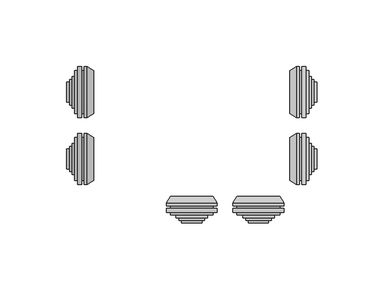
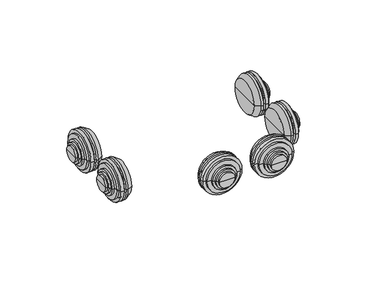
"""IFC4 building model written with IfcOpenShell, lengths in millimetres: cable carrier fitting geometry, КНС_КоробкаОтветвительнаяСКабельнымиВводами_10_IP55_DKC : с 10 кабельными вводами д.25мм, IP55, 150х110х70мм."""

from ifc_helpers import new_model, si_unit, frame, origin, place, context, project, spatial, polyline, circle_curve, source, transform, mapped, element, save
from ifc_brep_helpers import plane_surface, cylinder_surface, revolved_surface, advanced_brep


def cable_carrier_fitting_7de9eb7b(model_context):
    return source(origin(), model_context, "Body", "AdvancedBrep", [
        advanced_brep(
        [(-80.5, -41.0, 34.0), (-80.5, -9.0, 34.0), (-80.5, -6.0, 34.0), (-80.5, -44.0, 34.0), (-82.5, -41.0, 34.0), (-82.5, -9.0, 34.0), (-82.5, -44.0, 34.0), (-82.5, -6.0, 34.0), (-85.5, -44.0, 34.0), (-85.5, -6.0, 34.0), (-85.5, -41.0, 34.0), (-85.5, -9.0, 34.0), (-87.5, -41.0, 34.0), (-87.5, -9.0, 34.0), (-87.5, -36.75, 34.0), (-87.5, -13.25, 34.0), (-89.5, -36.75, 34.0), (-89.5, -13.25, 34.0), (-89.5, -34.5, 34.0), (-89.5, -15.5, 34.0), (-91.5, -34.5, 34.0), (-91.5, -15.5, 34.0), (-91.5, -32.5, 34.0), (-91.5, -17.5, 34.0), (-93.5, -32.5, 34.0), (-93.5, -17.5, 34.0), (-93.5, -25.0, 34.0), (-73.5, -41.0, 34.0), (-73.5, -9.0, 34.0), (-73.5, -25.0, 34.0), (-78.2491137, -44.0, 34.0), (-78.2491137, -6.0, 34.0)],
        [
            (0, 1, circle_curve(frame((-80.5, -25.0, 34.0), z_axis=(1.0, 0.0, 0.0), x_axis=(0.0, 1.0000000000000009, 0.0)), 16.0)),
            (1, 2),
            (2, 3, circle_curve(frame((-80.5, -25.0, 34.0), z_axis=(-1.0, 0.0, 0.0), x_axis=(0.0, 1.0000000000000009, 0.0)), 19.0)),
            (3, 0),
            (1, 0, circle_curve(frame((-80.5, -25.0, 34.0), z_axis=(1.0, 0.0, 0.0), x_axis=(0.0, 1.0000000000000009, 0.0)), 16.0)),
            (3, 2, circle_curve(frame((-80.5, -25.0, 34.0), z_axis=(-1.0, 0.0, 0.0), x_axis=(0.0, 1.0000000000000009, 0.0)), 19.0)),
            (4, 5, circle_curve(frame((-82.5, -25.0, 34.0), z_axis=(1.0, 0.0, 0.0), x_axis=(0.0, 1.0000000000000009, 0.0)), 16.0)),
            (5, 1),
            (0, 4),
            (5, 4, circle_curve(frame((-82.5, -25.0, 34.0), z_axis=(1.0, 0.0, 0.0), x_axis=(0.0, 1.0000000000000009, 0.0)), 16.0)),
            (6, 7, circle_curve(frame((-82.5, -25.0, 34.0), z_axis=(1.0, 0.0, 0.0), x_axis=(0.0, 1.0000000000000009, 0.0)), 19.0)),
            (7, 5),
            (4, 6),
            (7, 6, circle_curve(frame((-82.5, -25.0, 34.0), z_axis=(1.0, 0.0, 0.0), x_axis=(0.0, 1.0000000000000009, 0.0)), 19.0)),
            (8, 9, circle_curve(frame((-85.5, -25.0, 34.0), z_axis=(1.0, 0.0, 0.0), x_axis=(0.0, 1.0000000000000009, 0.0)), 19.0)),
            (9, 7),
            (6, 8),
            (9, 8, circle_curve(frame((-85.5, -25.0, 34.0), z_axis=(1.0, 0.0, 0.0), x_axis=(0.0, 1.0000000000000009, 0.0)), 19.0)),
            (10, 11, circle_curve(frame((-85.5, -25.0, 34.0), z_axis=(1.0, 0.0, 0.0), x_axis=(0.0, 1.0000000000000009, 0.0)), 16.0)),
            (11, 9),
            (8, 10),
            (11, 10, circle_curve(frame((-85.5, -25.0, 34.0), z_axis=(1.0, 0.0, 0.0), x_axis=(0.0, 1.0000000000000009, 0.0)), 16.0)),
            (12, 13, circle_curve(frame((-87.5, -25.0, 34.0), z_axis=(1.0, 0.0, 0.0), x_axis=(0.0, 1.0000000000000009, 0.0)), 16.0)),
            (13, 11),
            (10, 12),
            (13, 12, circle_curve(frame((-87.5, -25.0, 34.0), z_axis=(1.0, 0.0, 0.0), x_axis=(0.0, 1.0000000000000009, 0.0)), 16.0)),
            (14, 15, circle_curve(frame((-87.5, -25.0, 34.0), z_axis=(1.0, 0.0, 0.0), x_axis=(0.0, 1.0000000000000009, 0.0)), 11.75)),
            (15, 13),
            (12, 14),
            (15, 14, circle_curve(frame((-87.5, -25.0, 34.0), z_axis=(1.0, 0.0, 0.0), x_axis=(0.0, 1.0000000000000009, 0.0)), 11.75)),
            (16, 17, circle_curve(frame((-89.5, -25.0, 34.0), z_axis=(1.0, 0.0, 0.0), x_axis=(0.0, 1.0000000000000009, 0.0)), 11.75)),
            (17, 15),
            (14, 16),
            (17, 16, circle_curve(frame((-89.5, -25.0, 34.0), z_axis=(1.0, 0.0, 0.0), x_axis=(0.0, 1.0000000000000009, 0.0)), 11.75)),
            (18, 19, circle_curve(frame((-89.5, -25.0, 34.0), z_axis=(1.0, 0.0, 0.0), x_axis=(0.0, 1.0000000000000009, 0.0)), 9.5)),
            (19, 17),
            (16, 18),
            (19, 18, circle_curve(frame((-89.5, -25.0, 34.0), z_axis=(1.0, 0.0, 0.0), x_axis=(0.0, 1.0000000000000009, 0.0)), 9.5)),
            (20, 21, circle_curve(frame((-91.5, -25.0, 34.0), z_axis=(1.0, 0.0, 0.0), x_axis=(0.0, 1.0000000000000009, 0.0)), 9.5)),
            (21, 19),
            (18, 20),
            (21, 20, circle_curve(frame((-91.5, -25.0, 34.0), z_axis=(1.0, 0.0, 0.0), x_axis=(0.0, 1.0000000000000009, 0.0)), 9.5)),
            (22, 23, circle_curve(frame((-91.5, -25.0, 34.0), z_axis=(1.0, 0.0, 0.0), x_axis=(0.0, 1.0000000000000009, 0.0)), 7.5)),
            (23, 21),
            (20, 22),
            (23, 22, circle_curve(frame((-91.5, -25.0, 34.0), z_axis=(1.0, 0.0, 0.0), x_axis=(0.0, 1.0000000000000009, 0.0)), 7.5)),
            (24, 25, circle_curve(frame((-93.5, -25.0, 34.0), z_axis=(1.0, 0.0, 0.0), x_axis=(0.0, 1.0000000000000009, 0.0)), 7.5)),
            (25, 23),
            (22, 24),
            (25, 24, circle_curve(frame((-93.5, -25.0, 34.0), z_axis=(1.0, 0.0, 0.0), x_axis=(0.0, 1.0000000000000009, 0.0)), 7.5)),
            (26, 25),
            (24, 26),
            (27, 28, circle_curve(frame((-73.5, -25.0, 34.0), z_axis=(1.0, 0.0, 0.0), x_axis=(0.0, 1.0000000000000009, 0.0)), 16.0)),
            (28, 29),
            (29, 27),
            (28, 27, circle_curve(frame((-73.5, -25.0, 34.0), z_axis=(1.0, 0.0, 0.0), x_axis=(0.0, 1.0000000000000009, 0.0)), 16.0)),
            (30, 31, circle_curve(frame((-78.2491137, -25.0, 34.0), z_axis=(1.0, 0.0, 0.0), x_axis=(0.0, 1.0000000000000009, 0.0)), 19.0)),
            (31, 28),
            (27, 30),
            (31, 30, circle_curve(frame((-78.2491137, -25.0, 34.0), z_axis=(1.0, 0.0, 0.0), x_axis=(0.0, 1.0000000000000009, 0.0)), 19.0)),
            (2, 31),
            (30, 3),
        ],
        [
            plane_surface(frame((-80.5, -25.0, 34.0), z_axis=(-1.0, 0.0, 0.0), x_axis=(0.0, 1.0, 0.0))),
            cylinder_surface(frame((1432.5, -25.0, 34.0), z_axis=(-1.0000000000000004, 0.0, 0.0), x_axis=(0.0, 1.0000000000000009, 0.0)), 16.0),
            plane_surface(frame((-82.5, -25.0, 34.0), z_axis=(1.0, 0.0, 0.0), x_axis=(0.0, 1.0, 0.0))),
            cylinder_surface(frame((1432.5, -25.0, 34.0), z_axis=(-1.0000000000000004, 0.0, 0.0), x_axis=(0.0, 1.0000000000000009, 0.0)), 19.0),
            plane_surface(frame((-85.5, -25.0, 34.0), z_axis=(-1.0, 0.0, 0.0), x_axis=(0.0, 1.0, 0.0))),
            plane_surface(frame((-87.5, -25.0, 34.0), z_axis=(-1.0, 0.0, 0.0), x_axis=(0.0, 1.0, 0.0))),
            cylinder_surface(frame((1432.5, -25.0, 34.0), z_axis=(-1.0000000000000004, 0.0, 0.0), x_axis=(0.0, 1.0000000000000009, 0.0)), 11.75),
            plane_surface(frame((-89.5, -25.0, 34.0), z_axis=(-1.0, 0.0, 0.0), x_axis=(0.0, 1.0, 0.0))),
            cylinder_surface(frame((1432.5, -25.0, 34.0), z_axis=(-1.0000000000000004, 0.0, 0.0), x_axis=(0.0, 1.0000000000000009, 0.0)), 9.5),
            plane_surface(frame((-91.5, -25.0, 34.0), z_axis=(-1.0, 0.0, 0.0), x_axis=(0.0, 1.0, 0.0))),
            cylinder_surface(frame((1432.5, -25.0, 34.0), z_axis=(-1.0000000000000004, 0.0, 0.0), x_axis=(0.0, 1.0000000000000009, 0.0)), 7.5),
            plane_surface(frame((-93.5, -25.0, 34.0), z_axis=(-1.0, 0.0, 0.0), x_axis=(0.0, 1.0, 0.0))),
            plane_surface(frame((-73.5, -25.0, 34.0), z_axis=(1.0, 0.0, 0.0), x_axis=(0.0, 1.0, 0.0))),
            revolved_surface(polyline([(-73.5, -9.0, 34.0), (-78.2491137, -6.0, 34.0)]), (1432.5, -25.0, 34.0), (-1.0000000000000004, 0.0, 0.0)),
        ],
        [
            (0, [[1, 2, 3, 4]]),
            (0, [[5, -4, 6, -2]]),
            (1, [[7, 8, -1, 9]]),
            (1, [[10, -9, -5, -8]]),
            (2, [[11, 12, -7, 13]]),
            (2, [[14, -13, -10, -12]]),
            (3, [[15, 16, -11, 17]]),
            (3, [[18, -17, -14, -16]]),
            (4, [[19, 20, -15, 21]]),
            (4, [[22, -21, -18, -20]]),
            (1, [[23, 24, -19, 25]]),
            (1, [[26, -25, -22, -24]]),
            (5, [[27, 28, -23, 29]]),
            (5, [[30, -29, -26, -28]]),
            (6, [[31, 32, -27, 33]]),
            (6, [[34, -33, -30, -32]]),
            (7, [[35, 36, -31, 37]]),
            (7, [[38, -37, -34, -36]]),
            (8, [[39, 40, -35, 41]]),
            (8, [[42, -41, -38, -40]]),
            (9, [[43, 44, -39, 45]]),
            (9, [[46, -45, -42, -44]]),
            (10, [[47, 48, -43, 49]]),
            (10, [[50, -49, -46, -48]]),
            (11, [[51, -47, 52]]),
            (11, [[-52, -50, -51]]),
            (12, [[53, 54, 55]]),
            (12, [[56, -55, -54]]),
            (13, [[57, 58, -53, 59]]),
            (13, [[60, -59, -56, -58]]),
            (3, [[-3, 61, -57, 62]]),
            (3, [[-6, -62, -60, -61]]),
        ],
    ),
        advanced_brep(
        [(-80.5, 9.0, 34.0), (-80.5, 41.0, 34.0), (-80.5, 44.0, 34.0), (-80.5, 6.0, 34.0), (-82.5, 9.0, 34.0), (-82.5, 41.0, 34.0), (-82.5, 6.0, 34.0), (-82.5, 44.0, 34.0), (-85.5, 6.0, 34.0), (-85.5, 44.0, 34.0), (-85.5, 9.0, 34.0), (-85.5, 41.0, 34.0), (-87.5, 9.0, 34.0), (-87.5, 41.0, 34.0), (-87.5, 13.25, 34.0), (-87.5, 36.75, 34.0), (-89.5, 13.25, 34.0), (-89.5, 36.75, 34.0), (-89.5, 15.5, 34.0), (-89.5, 34.5, 34.0), (-91.5, 15.5, 34.0), (-91.5, 34.5, 34.0), (-91.5, 17.5, 34.0), (-91.5, 32.5, 34.0), (-93.5, 17.5, 34.0), (-93.5, 32.5, 34.0), (-93.5, 25.0, 34.0), (-73.5, 9.0, 34.0), (-73.5, 41.0, 34.0), (-73.5, 25.0, 34.0), (-78.2491137, 6.0, 34.0), (-78.2491137, 44.0, 34.0)],
        [
            (0, 1, circle_curve(frame((-80.5, 25.0, 34.0), z_axis=(1.0, 0.0, 0.0), x_axis=(0.0, 1.0000000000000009, 0.0)), 16.0)),
            (1, 2),
            (2, 3, circle_curve(frame((-80.5, 25.0, 34.0), z_axis=(-1.0, 0.0, 0.0), x_axis=(0.0, 1.0000000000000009, 0.0)), 19.0)),
            (3, 0),
            (1, 0, circle_curve(frame((-80.5, 25.0, 34.0), z_axis=(1.0, 0.0, 0.0), x_axis=(0.0, 1.0000000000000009, 0.0)), 16.0)),
            (3, 2, circle_curve(frame((-80.5, 25.0, 34.0), z_axis=(-1.0, 0.0, 0.0), x_axis=(0.0, 1.0000000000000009, 0.0)), 19.0)),
            (4, 5, circle_curve(frame((-82.5, 25.0, 34.0), z_axis=(1.0, 0.0, 0.0), x_axis=(0.0, 1.0000000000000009, 0.0)), 16.0)),
            (5, 1),
            (0, 4),
            (5, 4, circle_curve(frame((-82.5, 25.0, 34.0), z_axis=(1.0, 0.0, 0.0), x_axis=(0.0, 1.0000000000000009, 0.0)), 16.0)),
            (6, 7, circle_curve(frame((-82.5, 25.0, 34.0), z_axis=(1.0, 0.0, 0.0), x_axis=(0.0, 1.0000000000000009, 0.0)), 19.0)),
            (7, 5),
            (4, 6),
            (7, 6, circle_curve(frame((-82.5, 25.0, 34.0), z_axis=(1.0, 0.0, 0.0), x_axis=(0.0, 1.0000000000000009, 0.0)), 19.0)),
            (8, 9, circle_curve(frame((-85.5, 25.0, 34.0), z_axis=(1.0, 0.0, 0.0), x_axis=(0.0, 1.0000000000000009, 0.0)), 19.0)),
            (9, 7),
            (6, 8),
            (9, 8, circle_curve(frame((-85.5, 25.0, 34.0), z_axis=(1.0, 0.0, 0.0), x_axis=(0.0, 1.0000000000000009, 0.0)), 19.0)),
            (10, 11, circle_curve(frame((-85.5, 25.0, 34.0), z_axis=(1.0, 0.0, 0.0), x_axis=(0.0, 1.0000000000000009, 0.0)), 16.0)),
            (11, 9),
            (8, 10),
            (11, 10, circle_curve(frame((-85.5, 25.0, 34.0), z_axis=(1.0, 0.0, 0.0), x_axis=(0.0, 1.0000000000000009, 0.0)), 16.0)),
            (12, 13, circle_curve(frame((-87.5, 25.0, 34.0), z_axis=(1.0, 0.0, 0.0), x_axis=(0.0, 1.0000000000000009, 0.0)), 16.0)),
            (13, 11),
            (10, 12),
            (13, 12, circle_curve(frame((-87.5, 25.0, 34.0), z_axis=(1.0, 0.0, 0.0), x_axis=(0.0, 1.0000000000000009, 0.0)), 16.0)),
            (14, 15, circle_curve(frame((-87.5, 25.0, 34.0), z_axis=(1.0, 0.0, 0.0), x_axis=(0.0, 1.0000000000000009, 0.0)), 11.75)),
            (15, 13),
            (12, 14),
            (15, 14, circle_curve(frame((-87.5, 25.0, 34.0), z_axis=(1.0, 0.0, 0.0), x_axis=(0.0, 1.0000000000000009, 0.0)), 11.75)),
            (16, 17, circle_curve(frame((-89.5, 25.0, 34.0), z_axis=(1.0, 0.0, 0.0), x_axis=(0.0, 1.0000000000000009, 0.0)), 11.75)),
            (17, 15),
            (14, 16),
            (17, 16, circle_curve(frame((-89.5, 25.0, 34.0), z_axis=(1.0, 0.0, 0.0), x_axis=(0.0, 1.0000000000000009, 0.0)), 11.75)),
            (18, 19, circle_curve(frame((-89.5, 25.0, 34.0), z_axis=(1.0, 0.0, 0.0), x_axis=(0.0, 1.0000000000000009, 0.0)), 9.5)),
            (19, 17),
            (16, 18),
            (19, 18, circle_curve(frame((-89.5, 25.0, 34.0), z_axis=(1.0, 0.0, 0.0), x_axis=(0.0, 1.0000000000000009, 0.0)), 9.5)),
            (20, 21, circle_curve(frame((-91.5, 25.0, 34.0), z_axis=(1.0, 0.0, 0.0), x_axis=(0.0, 1.0000000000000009, 0.0)), 9.5)),
            (21, 19),
            (18, 20),
            (21, 20, circle_curve(frame((-91.5, 25.0, 34.0), z_axis=(1.0, 0.0, 0.0), x_axis=(0.0, 1.0000000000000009, 0.0)), 9.5)),
            (22, 23, circle_curve(frame((-91.5, 25.0, 34.0), z_axis=(1.0, 0.0, 0.0), x_axis=(0.0, 1.0000000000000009, 0.0)), 7.5)),
            (23, 21),
            (20, 22),
            (23, 22, circle_curve(frame((-91.5, 25.0, 34.0), z_axis=(1.0, 0.0, 0.0), x_axis=(0.0, 1.0000000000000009, 0.0)), 7.5)),
            (24, 25, circle_curve(frame((-93.5, 25.0, 34.0), z_axis=(1.0, 0.0, 0.0), x_axis=(0.0, 1.0000000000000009, 0.0)), 7.5)),
            (25, 23),
            (22, 24),
            (25, 24, circle_curve(frame((-93.5, 25.0, 34.0), z_axis=(1.0, 0.0, 0.0), x_axis=(0.0, 1.0000000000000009, 0.0)), 7.5)),
            (26, 25),
            (24, 26),
            (27, 28, circle_curve(frame((-73.5, 25.0, 34.0), z_axis=(1.0, 0.0, 0.0), x_axis=(0.0, 1.0000000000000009, 0.0)), 16.0)),
            (28, 29),
            (29, 27),
            (28, 27, circle_curve(frame((-73.5, 25.0, 34.0), z_axis=(1.0, 0.0, 0.0), x_axis=(0.0, 1.0000000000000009, 0.0)), 16.0)),
            (30, 31, circle_curve(frame((-78.2491137, 25.0, 34.0), z_axis=(1.0, 0.0, 0.0), x_axis=(0.0, 1.0000000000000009, 0.0)), 19.0)),
            (31, 28),
            (27, 30),
            (31, 30, circle_curve(frame((-78.2491137, 25.0, 34.0), z_axis=(1.0, 0.0, 0.0), x_axis=(0.0, 1.0000000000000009, 0.0)), 19.0)),
            (2, 31),
            (30, 3),
        ],
        [
            plane_surface(frame((-80.5, 25.0, 34.0), z_axis=(-1.0, 0.0, 0.0), x_axis=(0.0, 1.0, 0.0))),
            cylinder_surface(frame((1432.5, 25.0, 34.0), z_axis=(-1.0000000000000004, 0.0, 0.0), x_axis=(0.0, 1.0000000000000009, 0.0)), 16.0),
            plane_surface(frame((-82.5, 25.0, 34.0), z_axis=(1.0, 0.0, 0.0), x_axis=(0.0, 1.0, 0.0))),
            cylinder_surface(frame((1432.5, 25.0, 34.0), z_axis=(-1.0000000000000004, 0.0, 0.0), x_axis=(0.0, 1.0000000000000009, 0.0)), 19.0),
            plane_surface(frame((-85.5, 25.0, 34.0), z_axis=(-1.0, 0.0, 0.0), x_axis=(0.0, 1.0, 0.0))),
            plane_surface(frame((-87.5, 25.0, 34.0), z_axis=(-1.0, 0.0, 0.0), x_axis=(0.0, 1.0, 0.0))),
            cylinder_surface(frame((1432.5, 25.0, 34.0), z_axis=(-1.0000000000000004, 0.0, 0.0), x_axis=(0.0, 1.0000000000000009, 0.0)), 11.75),
            plane_surface(frame((-89.5, 25.0, 34.0), z_axis=(-1.0, 0.0, 0.0), x_axis=(0.0, 1.0, 0.0))),
            cylinder_surface(frame((1432.5, 25.0, 34.0), z_axis=(-1.0000000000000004, 0.0, 0.0), x_axis=(0.0, 1.0000000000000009, 0.0)), 9.5),
            plane_surface(frame((-91.5, 25.0, 34.0), z_axis=(-1.0, 0.0, 0.0), x_axis=(0.0, 1.0, 0.0))),
            cylinder_surface(frame((1432.5, 25.0, 34.0), z_axis=(-1.0000000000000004, 0.0, 0.0), x_axis=(0.0, 1.0000000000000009, 0.0)), 7.5),
            plane_surface(frame((-93.5, 25.0, 34.0), z_axis=(-1.0, 0.0, 0.0), x_axis=(0.0, 1.0, 0.0))),
            plane_surface(frame((-73.5, 25.0, 34.0), z_axis=(1.0, 0.0, 0.0), x_axis=(0.0, 1.0, 0.0))),
            revolved_surface(polyline([(-73.5, 41.0, 34.0), (-78.2491137, 44.0, 34.0)]), (1432.5, 25.0, 34.0), (-1.0000000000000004, 0.0, 0.0)),
        ],
        [
            (0, [[1, 2, 3, 4]]),
            (0, [[5, -4, 6, -2]]),
            (1, [[7, 8, -1, 9]]),
            (1, [[10, -9, -5, -8]]),
            (2, [[11, 12, -7, 13]]),
            (2, [[14, -13, -10, -12]]),
            (3, [[15, 16, -11, 17]]),
            (3, [[18, -17, -14, -16]]),
            (4, [[19, 20, -15, 21]]),
            (4, [[22, -21, -18, -20]]),
            (1, [[23, 24, -19, 25]]),
            (1, [[26, -25, -22, -24]]),
            (5, [[27, 28, -23, 29]]),
            (5, [[30, -29, -26, -28]]),
            (6, [[31, 32, -27, 33]]),
            (6, [[34, -33, -30, -32]]),
            (7, [[35, 36, -31, 37]]),
            (7, [[38, -37, -34, -36]]),
            (8, [[39, 40, -35, 41]]),
            (8, [[42, -41, -38, -40]]),
            (9, [[43, 44, -39, 45]]),
            (9, [[46, -45, -42, -44]]),
            (10, [[47, 48, -43, 49]]),
            (10, [[50, -49, -46, -48]]),
            (11, [[51, -47, 52]]),
            (11, [[-52, -50, -51]]),
            (12, [[53, 54, 55]]),
            (12, [[56, -55, -54]]),
            (13, [[57, 58, -53, 59]]),
            (13, [[60, -59, -56, -58]]),
            (3, [[-3, 61, -57, 62]]),
            (3, [[-6, -62, -60, -61]]),
        ],
    ),
        advanced_brep(
        [(80.5, 41.0, 34.0), (80.5, 9.0, 34.0), (80.5, 6.0, 34.0), (80.5, 44.0, 34.0), (82.5, 41.0, 34.0), (82.5, 9.0, 34.0), (82.5, 44.0, 34.0), (82.5, 6.0, 34.0), (85.5, 44.0, 34.0), (85.5, 6.0, 34.0), (85.5, 41.0, 34.0), (85.5, 9.0, 34.0), (87.5, 41.0, 34.0), (87.5, 9.0, 34.0), (87.5, 36.75, 34.0), (87.5, 13.25, 34.0), (89.5, 36.75, 34.0), (89.5, 13.25, 34.0), (89.5, 34.5, 34.0), (89.5, 15.5, 34.0), (91.5, 34.5, 34.0), (91.5, 15.5, 34.0), (91.5, 32.5, 34.0), (91.5, 17.5, 34.0), (93.5, 32.5, 34.0), (93.5, 17.5, 34.0), (93.5, 25.0, 34.0), (73.5, 41.0, 34.0), (73.5, 9.0, 34.0), (73.5, 25.0, 34.0), (78.2491137, 44.0, 34.0), (78.2491137, 6.0, 34.0)],
        [
            (0, 1, circle_curve(frame((80.5, 25.0, 34.0), z_axis=(-1.0, 0.0, 0.0), x_axis=(0.0, -1.0, 0.0)), 16.0)),
            (1, 2),
            (2, 3, circle_curve(frame((80.5, 25.0, 34.0), z_axis=(1.0, 0.0, 0.0), x_axis=(0.0, -1.0, 0.0)), 19.0)),
            (3, 0),
            (1, 0, circle_curve(frame((80.5, 25.0, 34.0), z_axis=(-1.0, 0.0, 0.0), x_axis=(0.0, -1.0, 0.0)), 16.0)),
            (3, 2, circle_curve(frame((80.5, 25.0, 34.0), z_axis=(1.0, 0.0, 0.0), x_axis=(0.0, -1.0, 0.0)), 19.0)),
            (4, 5, circle_curve(frame((82.5, 25.0, 34.0), z_axis=(-1.0, 0.0, 0.0), x_axis=(0.0, -1.0, 0.0)), 16.0)),
            (5, 1),
            (0, 4),
            (5, 4, circle_curve(frame((82.5, 25.0, 34.0), z_axis=(-1.0, 0.0, 0.0), x_axis=(0.0, -1.0, 0.0)), 16.0)),
            (6, 7, circle_curve(frame((82.5, 25.0, 34.0), z_axis=(-1.0, 0.0, 0.0), x_axis=(0.0, -1.0, 0.0)), 19.0)),
            (7, 5),
            (4, 6),
            (7, 6, circle_curve(frame((82.5, 25.0, 34.0), z_axis=(-1.0, 0.0, 0.0), x_axis=(0.0, -1.0, 0.0)), 19.0)),
            (8, 9, circle_curve(frame((85.5, 25.0, 34.0), z_axis=(-1.0, 0.0, 0.0), x_axis=(0.0, -1.0, 0.0)), 19.0)),
            (9, 7),
            (6, 8),
            (9, 8, circle_curve(frame((85.5, 25.0, 34.0), z_axis=(-1.0, 0.0, 0.0), x_axis=(0.0, -1.0, 0.0)), 19.0)),
            (10, 11, circle_curve(frame((85.5, 25.0, 34.0), z_axis=(-1.0, 0.0, 0.0), x_axis=(0.0, -1.0, 0.0)), 16.0)),
            (11, 9),
            (8, 10),
            (11, 10, circle_curve(frame((85.5, 25.0, 34.0), z_axis=(-1.0, 0.0, 0.0), x_axis=(0.0, -1.0, 0.0)), 16.0)),
            (12, 13, circle_curve(frame((87.5, 25.0, 34.0), z_axis=(-1.0, 0.0, 0.0), x_axis=(0.0, -1.0, 0.0)), 16.0)),
            (13, 11),
            (10, 12),
            (13, 12, circle_curve(frame((87.5, 25.0, 34.0), z_axis=(-1.0, 0.0, 0.0), x_axis=(0.0, -1.0, 0.0)), 16.0)),
            (14, 15, circle_curve(frame((87.5, 25.0, 34.0), z_axis=(-1.0, 0.0, 0.0), x_axis=(0.0, -1.0, 0.0)), 11.75)),
            (15, 13),
            (12, 14),
            (15, 14, circle_curve(frame((87.5, 25.0, 34.0), z_axis=(-1.0, 0.0, 0.0), x_axis=(0.0, -1.0, 0.0)), 11.75)),
            (16, 17, circle_curve(frame((89.5, 25.0, 34.0), z_axis=(-1.0, 0.0, 0.0), x_axis=(0.0, -1.0, 0.0)), 11.75)),
            (17, 15),
            (14, 16),
            (17, 16, circle_curve(frame((89.5, 25.0, 34.0), z_axis=(-1.0, 0.0, 0.0), x_axis=(0.0, -1.0, 0.0)), 11.75)),
            (18, 19, circle_curve(frame((89.5, 25.0, 34.0), z_axis=(-1.0, 0.0, 0.0), x_axis=(0.0, -1.0, 0.0)), 9.5)),
            (19, 17),
            (16, 18),
            (19, 18, circle_curve(frame((89.5, 25.0, 34.0), z_axis=(-1.0, 0.0, 0.0), x_axis=(0.0, -1.0, 0.0)), 9.5)),
            (20, 21, circle_curve(frame((91.5, 25.0, 34.0), z_axis=(-1.0, 0.0, 0.0), x_axis=(0.0, -1.0, 0.0)), 9.5)),
            (21, 19),
            (18, 20),
            (21, 20, circle_curve(frame((91.5, 25.0, 34.0), z_axis=(-1.0, 0.0, 0.0), x_axis=(0.0, -1.0, 0.0)), 9.5)),
            (22, 23, circle_curve(frame((91.5, 25.0, 34.0), z_axis=(-1.0, 0.0, 0.0), x_axis=(0.0, -1.0, 0.0)), 7.5)),
            (23, 21),
            (20, 22),
            (23, 22, circle_curve(frame((91.5, 25.0, 34.0), z_axis=(-1.0, 0.0, 0.0), x_axis=(0.0, -1.0, 0.0)), 7.5)),
            (24, 25, circle_curve(frame((93.5, 25.0, 34.0), z_axis=(-1.0, 0.0, 0.0), x_axis=(0.0, -1.0, 0.0)), 7.5)),
            (25, 23),
            (22, 24),
            (25, 24, circle_curve(frame((93.5, 25.0, 34.0), z_axis=(-1.0, 0.0, 0.0), x_axis=(0.0, -1.0, 0.0)), 7.5)),
            (26, 25),
            (24, 26),
            (27, 28, circle_curve(frame((73.5, 25.0, 34.0), z_axis=(-1.0, 0.0, 0.0), x_axis=(0.0, -1.0, 0.0)), 16.0)),
            (28, 29),
            (29, 27),
            (28, 27, circle_curve(frame((73.5, 25.0, 34.0), z_axis=(-1.0, 0.0, 0.0), x_axis=(0.0, -1.0, 0.0)), 16.0)),
            (30, 31, circle_curve(frame((78.2491137, 25.0, 34.0), z_axis=(-1.0, 0.0, 0.0), x_axis=(0.0, -1.0, 0.0)), 19.0)),
            (31, 28),
            (27, 30),
            (31, 30, circle_curve(frame((78.2491137, 25.0, 34.0), z_axis=(-1.0, 0.0, 0.0), x_axis=(0.0, -1.0, 0.0)), 19.0)),
            (2, 31),
            (30, 3),
        ],
        [
            plane_surface(frame((80.5, 25.0, 34.0), z_axis=(1.0, 0.0, 0.0), x_axis=(0.0, -1.0, 0.0))),
            cylinder_surface(frame((-1432.5, 25.0, 34.0), z_axis=(1.0, 0.0, 0.0), x_axis=(0.0, -1.0, 0.0)), 16.0),
            plane_surface(frame((82.5, 25.0, 34.0), z_axis=(-1.0, 0.0, 0.0), x_axis=(0.0, -1.0, 0.0))),
            cylinder_surface(frame((-1432.5, 25.0, 34.0), z_axis=(1.0, 0.0, 0.0), x_axis=(0.0, -1.0, 0.0)), 19.0),
            plane_surface(frame((85.5, 25.0, 34.0), z_axis=(1.0, 0.0, 0.0), x_axis=(0.0, -1.0, 0.0))),
            plane_surface(frame((87.5, 25.0, 34.0), z_axis=(1.0, 0.0, 0.0), x_axis=(0.0, -1.0, 0.0))),
            cylinder_surface(frame((-1432.5, 25.0, 34.0), z_axis=(1.0, 0.0, 0.0), x_axis=(0.0, -1.0, 0.0)), 11.75),
            plane_surface(frame((89.5, 25.0, 34.0), z_axis=(1.0, 0.0, 0.0), x_axis=(0.0, -1.0, 0.0))),
            cylinder_surface(frame((-1432.5, 25.0, 34.0), z_axis=(1.0, 0.0, 0.0), x_axis=(0.0, -1.0, 0.0)), 9.5),
            plane_surface(frame((91.5, 25.0, 34.0), z_axis=(1.0, 0.0, 0.0), x_axis=(0.0, -1.0, 0.0))),
            cylinder_surface(frame((-1432.5, 25.0, 34.0), z_axis=(1.0, 0.0, 0.0), x_axis=(0.0, -1.0, 0.0)), 7.5),
            plane_surface(frame((93.5, 25.0, 34.0), z_axis=(1.0, 0.0, 0.0), x_axis=(0.0, -1.0, 0.0))),
            plane_surface(frame((73.5, 25.0, 34.0), z_axis=(-1.0, 0.0, 0.0), x_axis=(0.0, -1.0, 0.0))),
            revolved_surface(polyline([(73.5, 9.0, 34.0), (78.2491137, 6.0, 34.0)]), (-1432.5, 25.0, 34.0), (1.0, 0.0, 0.0)),
        ],
        [
            (0, [[1, 2, 3, 4]]),
            (0, [[5, -4, 6, -2]]),
            (1, [[7, 8, -1, 9]]),
            (1, [[10, -9, -5, -8]]),
            (2, [[11, 12, -7, 13]]),
            (2, [[14, -13, -10, -12]]),
            (3, [[15, 16, -11, 17]]),
            (3, [[18, -17, -14, -16]]),
            (4, [[19, 20, -15, 21]]),
            (4, [[22, -21, -18, -20]]),
            (1, [[23, 24, -19, 25]]),
            (1, [[26, -25, -22, -24]]),
            (5, [[27, 28, -23, 29]]),
            (5, [[30, -29, -26, -28]]),
            (6, [[31, 32, -27, 33]]),
            (6, [[34, -33, -30, -32]]),
            (7, [[35, 36, -31, 37]]),
            (7, [[38, -37, -34, -36]]),
            (8, [[39, 40, -35, 41]]),
            (8, [[42, -41, -38, -40]]),
            (9, [[43, 44, -39, 45]]),
            (9, [[46, -45, -42, -44]]),
            (10, [[47, 48, -43, 49]]),
            (10, [[50, -49, -46, -48]]),
            (11, [[51, -47, 52]]),
            (11, [[-52, -50, -51]]),
            (12, [[53, 54, 55]]),
            (12, [[56, -55, -54]]),
            (13, [[57, 58, -53, 59]]),
            (13, [[60, -59, -56, -58]]),
            (3, [[-3, 61, -57, 62]]),
            (3, [[-6, -62, -60, -61]]),
        ],
    ),
        advanced_brep(
        [(80.5, -9.0, 34.0), (80.5, -41.0, 34.0), (80.5, -44.0, 34.0), (80.5, -6.0, 34.0), (82.5, -9.0, 34.0), (82.5, -41.0, 34.0), (82.5, -6.0, 34.0), (82.5, -44.0, 34.0), (85.5, -6.0, 34.0), (85.5, -44.0, 34.0), (85.5, -9.0, 34.0), (85.5, -41.0, 34.0), (87.5, -9.0, 34.0), (87.5, -41.0, 34.0), (87.5, -13.25, 34.0), (87.5, -36.75, 34.0), (89.5, -13.25, 34.0), (89.5, -36.75, 34.0), (89.5, -15.5, 34.0), (89.5, -34.5, 34.0), (91.5, -15.5, 34.0), (91.5, -34.5, 34.0), (91.5, -17.5, 34.0), (91.5, -32.5, 34.0), (93.5, -17.5, 34.0), (93.5, -32.5, 34.0), (93.5, -25.0, 34.0), (73.5, -9.0, 34.0), (73.5, -41.0, 34.0), (73.5, -25.0, 34.0), (78.2491137, -6.0, 34.0), (78.2491137, -44.0, 34.0)],
        [
            (0, 1, circle_curve(frame((80.5, -25.0, 34.0), z_axis=(-1.0, 0.0, 0.0), x_axis=(0.0, -1.0000000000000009, 0.0)), 16.0)),
            (1, 2),
            (2, 3, circle_curve(frame((80.5, -25.0, 34.0), z_axis=(1.0, 0.0, 0.0), x_axis=(0.0, -1.0000000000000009, 0.0)), 19.0)),
            (3, 0),
            (1, 0, circle_curve(frame((80.5, -25.0, 34.0), z_axis=(-1.0, 0.0, 0.0), x_axis=(0.0, -1.0000000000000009, 0.0)), 16.0)),
            (3, 2, circle_curve(frame((80.5, -25.0, 34.0), z_axis=(1.0, 0.0, 0.0), x_axis=(0.0, -1.0000000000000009, 0.0)), 19.0)),
            (4, 5, circle_curve(frame((82.5, -25.0, 34.0), z_axis=(-1.0, 0.0, 0.0), x_axis=(0.0, -1.0000000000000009, 0.0)), 16.0)),
            (5, 1),
            (0, 4),
            (5, 4, circle_curve(frame((82.5, -25.0, 34.0), z_axis=(-1.0, 0.0, 0.0), x_axis=(0.0, -1.0000000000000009, 0.0)), 16.0)),
            (6, 7, circle_curve(frame((82.5, -25.0, 34.0), z_axis=(-1.0, 0.0, 0.0), x_axis=(0.0, -1.0000000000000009, 0.0)), 19.0)),
            (7, 5),
            (4, 6),
            (7, 6, circle_curve(frame((82.5, -25.0, 34.0), z_axis=(-1.0, 0.0, 0.0), x_axis=(0.0, -1.0000000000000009, 0.0)), 19.0)),
            (8, 9, circle_curve(frame((85.5, -25.0, 34.0), z_axis=(-1.0, 0.0, 0.0), x_axis=(0.0, -1.0000000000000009, 0.0)), 19.0)),
            (9, 7),
            (6, 8),
            (9, 8, circle_curve(frame((85.5, -25.0, 34.0), z_axis=(-1.0, 0.0, 0.0), x_axis=(0.0, -1.0000000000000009, 0.0)), 19.0)),
            (10, 11, circle_curve(frame((85.5, -25.0, 34.0), z_axis=(-1.0, 0.0, 0.0), x_axis=(0.0, -1.0000000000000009, 0.0)), 16.0)),
            (11, 9),
            (8, 10),
            (11, 10, circle_curve(frame((85.5, -25.0, 34.0), z_axis=(-1.0, 0.0, 0.0), x_axis=(0.0, -1.0000000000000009, 0.0)), 16.0)),
            (12, 13, circle_curve(frame((87.5, -25.0, 34.0), z_axis=(-1.0, 0.0, 0.0), x_axis=(0.0, -1.0000000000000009, 0.0)), 16.0)),
            (13, 11),
            (10, 12),
            (13, 12, circle_curve(frame((87.5, -25.0, 34.0), z_axis=(-1.0, 0.0, 0.0), x_axis=(0.0, -1.0000000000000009, 0.0)), 16.0)),
            (14, 15, circle_curve(frame((87.5, -25.0, 34.0), z_axis=(-1.0, 0.0, 0.0), x_axis=(0.0, -1.0000000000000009, 0.0)), 11.75)),
            (15, 13),
            (12, 14),
            (15, 14, circle_curve(frame((87.5, -25.0, 34.0), z_axis=(-1.0, 0.0, 0.0), x_axis=(0.0, -1.0000000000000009, 0.0)), 11.75)),
            (16, 17, circle_curve(frame((89.5, -25.0, 34.0), z_axis=(-1.0, 0.0, 0.0), x_axis=(0.0, -1.0000000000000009, 0.0)), 11.75)),
            (17, 15),
            (14, 16),
            (17, 16, circle_curve(frame((89.5, -25.0, 34.0), z_axis=(-1.0, 0.0, 0.0), x_axis=(0.0, -1.0000000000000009, 0.0)), 11.75)),
            (18, 19, circle_curve(frame((89.5, -25.0, 34.0), z_axis=(-1.0, 0.0, 0.0), x_axis=(0.0, -1.0000000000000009, 0.0)), 9.5)),
            (19, 17),
            (16, 18),
            (19, 18, circle_curve(frame((89.5, -25.0, 34.0), z_axis=(-1.0, 0.0, 0.0), x_axis=(0.0, -1.0000000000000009, 0.0)), 9.5)),
            (20, 21, circle_curve(frame((91.5, -25.0, 34.0), z_axis=(-1.0, 0.0, 0.0), x_axis=(0.0, -1.0000000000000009, 0.0)), 9.5)),
            (21, 19),
            (18, 20),
            (21, 20, circle_curve(frame((91.5, -25.0, 34.0), z_axis=(-1.0, 0.0, 0.0), x_axis=(0.0, -1.0000000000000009, 0.0)), 9.5)),
            (22, 23, circle_curve(frame((91.5, -25.0, 34.0), z_axis=(-1.0, 0.0, 0.0), x_axis=(0.0, -1.0000000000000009, 0.0)), 7.5)),
            (23, 21),
            (20, 22),
            (23, 22, circle_curve(frame((91.5, -25.0, 34.0), z_axis=(-1.0, 0.0, 0.0), x_axis=(0.0, -1.0000000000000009, 0.0)), 7.5)),
            (24, 25, circle_curve(frame((93.5, -25.0, 34.0), z_axis=(-1.0, 0.0, 0.0), x_axis=(0.0, -1.0000000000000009, 0.0)), 7.5)),
            (25, 23),
            (22, 24),
            (25, 24, circle_curve(frame((93.5, -25.0, 34.0), z_axis=(-1.0, 0.0, 0.0), x_axis=(0.0, -1.0000000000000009, 0.0)), 7.5)),
            (26, 25),
            (24, 26),
            (27, 28, circle_curve(frame((73.5, -25.0, 34.0), z_axis=(-1.0, 0.0, 0.0), x_axis=(0.0, -1.0000000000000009, 0.0)), 16.0)),
            (28, 29),
            (29, 27),
            (28, 27, circle_curve(frame((73.5, -25.0, 34.0), z_axis=(-1.0, 0.0, 0.0), x_axis=(0.0, -1.0000000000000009, 0.0)), 16.0)),
            (30, 31, circle_curve(frame((78.2491137, -25.0, 34.0), z_axis=(-1.0, 0.0, 0.0), x_axis=(0.0, -1.0000000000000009, 0.0)), 19.0)),
            (31, 28),
            (27, 30),
            (31, 30, circle_curve(frame((78.2491137, -25.0, 34.0), z_axis=(-1.0, 0.0, 0.0), x_axis=(0.0, -1.0000000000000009, 0.0)), 19.0)),
            (2, 31),
            (30, 3),
        ],
        [
            plane_surface(frame((80.5, -25.0, 34.0), z_axis=(1.0, 0.0, 0.0), x_axis=(0.0, -1.0, 0.0))),
            cylinder_surface(frame((-1432.5, -25.0, 34.0), z_axis=(1.0000000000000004, 0.0, 0.0), x_axis=(0.0, -1.0000000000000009, 0.0)), 16.0),
            plane_surface(frame((82.5, -25.0, 34.0), z_axis=(-1.0, 0.0, 0.0), x_axis=(0.0, -1.0, 0.0))),
            cylinder_surface(frame((-1432.5, -25.0, 34.0), z_axis=(1.0000000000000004, 0.0, 0.0), x_axis=(0.0, -1.0000000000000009, 0.0)), 19.0),
            plane_surface(frame((85.5, -25.0, 34.0), z_axis=(1.0, 0.0, 0.0), x_axis=(0.0, -1.0, 0.0))),
            plane_surface(frame((87.5, -25.0, 34.0), z_axis=(1.0, 0.0, 0.0), x_axis=(0.0, -1.0, 0.0))),
            cylinder_surface(frame((-1432.5, -25.0, 34.0), z_axis=(1.0000000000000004, 0.0, 0.0), x_axis=(0.0, -1.0000000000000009, 0.0)), 11.75),
            plane_surface(frame((89.5, -25.0, 34.0), z_axis=(1.0, 0.0, 0.0), x_axis=(0.0, -1.0, 0.0))),
            cylinder_surface(frame((-1432.5, -25.0, 34.0), z_axis=(1.0000000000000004, 0.0, 0.0), x_axis=(0.0, -1.0000000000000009, 0.0)), 9.5),
            plane_surface(frame((91.5, -25.0, 34.0), z_axis=(1.0, 0.0, 0.0), x_axis=(0.0, -1.0, 0.0))),
            cylinder_surface(frame((-1432.5, -25.0, 34.0), z_axis=(1.0000000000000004, 0.0, 0.0), x_axis=(0.0, -1.0000000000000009, 0.0)), 7.5),
            plane_surface(frame((93.5, -25.0, 34.0), z_axis=(1.0, 0.0, 0.0), x_axis=(0.0, -1.0, 0.0))),
            plane_surface(frame((73.5, -25.0, 34.0), z_axis=(-1.0, 0.0, 0.0), x_axis=(0.0, -1.0, 0.0))),
            revolved_surface(polyline([(73.5, -41.0, 34.0), (78.2491137, -44.0, 34.0)]), (-1432.5, -25.0, 34.0), (1.0000000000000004, 0.0, 0.0)),
        ],
        [
            (0, [[1, 2, 3, 4]]),
            (0, [[5, -4, 6, -2]]),
            (1, [[7, 8, -1, 9]]),
            (1, [[10, -9, -5, -8]]),
            (2, [[11, 12, -7, 13]]),
            (2, [[14, -13, -10, -12]]),
            (3, [[15, 16, -11, 17]]),
            (3, [[18, -17, -14, -16]]),
            (4, [[19, 20, -15, 21]]),
            (4, [[22, -21, -18, -20]]),
            (1, [[23, 24, -19, 25]]),
            (1, [[26, -25, -22, -24]]),
            (5, [[27, 28, -23, 29]]),
            (5, [[30, -29, -26, -28]]),
            (6, [[31, 32, -27, 33]]),
            (6, [[34, -33, -30, -32]]),
            (7, [[35, 36, -31, 37]]),
            (7, [[38, -37, -34, -36]]),
            (8, [[39, 40, -35, 41]]),
            (8, [[42, -41, -38, -40]]),
            (9, [[43, 44, -39, 45]]),
            (9, [[46, -45, -42, -44]]),
            (10, [[47, 48, -43, 49]]),
            (10, [[50, -49, -46, -48]]),
            (11, [[51, -47, 52]]),
            (11, [[-52, -50, -51]]),
            (12, [[53, 54, 55]]),
            (12, [[56, -55, -54]]),
            (13, [[57, 58, -53, 59]]),
            (13, [[60, -59, -56, -58]]),
            (3, [[-3, 61, -57, 62]]),
            (3, [[-6, -62, -60, -61]]),
        ],
    ),
        advanced_brep(
        [(66.0, -60.0, 34.0), (34.0, -60.0, 34.0), (31.0, -60.0, 34.0), (69.0, -60.0, 34.0), (66.0, -62.0, 34.0), (34.0, -62.0, 34.0), (69.0, -62.0, 34.0), (31.0, -62.0, 34.0), (69.0, -65.0, 34.0), (31.0, -65.0, 34.0), (66.0, -65.0, 34.0), (34.0, -65.0, 34.0), (66.0, -67.0, 34.0), (34.0, -67.0, 34.0), (61.75, -67.0, 34.0), (38.25, -67.0, 34.0), (61.75, -69.0, 34.0), (38.25, -69.0, 34.0), (59.5, -69.0, 34.0), (40.5, -69.0, 34.0), (59.5, -71.0, 34.0), (40.5, -71.0, 34.0), (57.5, -71.0, 34.0), (42.5, -71.0, 34.0), (57.5, -73.0, 34.0), (42.5, -73.0, 34.0), (50.0, -73.0, 34.0), (66.0, -53.0, 34.0), (34.0, -53.0, 34.0), (50.0, -53.0, 34.0), (69.0, -57.7491137, 34.0), (31.0, -57.7491137, 34.0)],
        [
            (0, 1, circle_curve(frame((50.0, -60.0, 34.0), z_axis=(0.0, 1.0, 0.0), x_axis=(-1.0000000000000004, 0.0, 0.0)), 16.0)),
            (1, 2),
            (2, 3, circle_curve(frame((50.0, -60.0, 34.0), z_axis=(0.0, -1.0, 0.0), x_axis=(-1.0000000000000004, 0.0, 0.0)), 19.0)),
            (3, 0),
            (1, 0, circle_curve(frame((50.0, -60.0, 34.0), z_axis=(0.0, 1.0, 0.0), x_axis=(-1.0000000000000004, 0.0, 0.0)), 16.0)),
            (3, 2, circle_curve(frame((50.0, -60.0, 34.0), z_axis=(0.0, -1.0, 0.0), x_axis=(-1.0000000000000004, 0.0, 0.0)), 19.0)),
            (4, 5, circle_curve(frame((50.0, -62.0, 34.0), z_axis=(0.0, 1.0, 0.0), x_axis=(-1.0000000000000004, 0.0, 0.0)), 16.0)),
            (5, 1),
            (0, 4),
            (5, 4, circle_curve(frame((50.0, -62.0, 34.0), z_axis=(0.0, 1.0, 0.0), x_axis=(-1.0000000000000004, 0.0, 0.0)), 16.0)),
            (6, 7, circle_curve(frame((50.0, -62.0, 34.0), z_axis=(0.0, 1.0, 0.0), x_axis=(-1.0000000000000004, 0.0, 0.0)), 19.0)),
            (7, 5),
            (4, 6),
            (7, 6, circle_curve(frame((50.0, -62.0, 34.0), z_axis=(0.0, 1.0, 0.0), x_axis=(-1.0000000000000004, 0.0, 0.0)), 19.0)),
            (8, 9, circle_curve(frame((50.0, -65.0, 34.0), z_axis=(0.0, 1.0, 0.0), x_axis=(-1.0000000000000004, 0.0, 0.0)), 19.0)),
            (9, 7),
            (6, 8),
            (9, 8, circle_curve(frame((50.0, -65.0, 34.0), z_axis=(0.0, 1.0, 0.0), x_axis=(-1.0000000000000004, 0.0, 0.0)), 19.0)),
            (10, 11, circle_curve(frame((50.0, -65.0, 34.0), z_axis=(0.0, 1.0, 0.0), x_axis=(-1.0000000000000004, 0.0, 0.0)), 16.0)),
            (11, 9),
            (8, 10),
            (11, 10, circle_curve(frame((50.0, -65.0, 34.0), z_axis=(0.0, 1.0, 0.0), x_axis=(-1.0000000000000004, 0.0, 0.0)), 16.0)),
            (12, 13, circle_curve(frame((50.0, -67.0, 34.0), z_axis=(0.0, 1.0, 0.0), x_axis=(-1.0000000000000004, 0.0, 0.0)), 16.0)),
            (13, 11),
            (10, 12),
            (13, 12, circle_curve(frame((50.0, -67.0, 34.0), z_axis=(0.0, 1.0, 0.0), x_axis=(-1.0000000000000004, 0.0, 0.0)), 16.0)),
            (14, 15, circle_curve(frame((50.0, -67.0, 34.0), z_axis=(0.0, 1.0, 0.0), x_axis=(-1.0000000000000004, 0.0, 0.0)), 11.75)),
            (15, 13),
            (12, 14),
            (15, 14, circle_curve(frame((50.0, -67.0, 34.0), z_axis=(0.0, 1.0, 0.0), x_axis=(-1.0000000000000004, 0.0, 0.0)), 11.75)),
            (16, 17, circle_curve(frame((50.0, -69.0, 34.0), z_axis=(0.0, 1.0, 0.0), x_axis=(-1.0000000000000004, 0.0, 0.0)), 11.75)),
            (17, 15),
            (14, 16),
            (17, 16, circle_curve(frame((50.0, -69.0, 34.0), z_axis=(0.0, 1.0, 0.0), x_axis=(-1.0000000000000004, 0.0, 0.0)), 11.75)),
            (18, 19, circle_curve(frame((50.0, -69.0, 34.0), z_axis=(0.0, 1.0, 0.0), x_axis=(-1.0000000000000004, 0.0, 0.0)), 9.5)),
            (19, 17),
            (16, 18),
            (19, 18, circle_curve(frame((50.0, -69.0, 34.0), z_axis=(0.0, 1.0, 0.0), x_axis=(-1.0000000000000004, 0.0, 0.0)), 9.5)),
            (20, 21, circle_curve(frame((50.0, -71.0, 34.0), z_axis=(0.0, 1.0, 0.0), x_axis=(-1.0000000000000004, 0.0, 0.0)), 9.5)),
            (21, 19),
            (18, 20),
            (21, 20, circle_curve(frame((50.0, -71.0, 34.0), z_axis=(0.0, 1.0, 0.0), x_axis=(-1.0000000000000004, 0.0, 0.0)), 9.5)),
            (22, 23, circle_curve(frame((50.0, -71.0, 34.0), z_axis=(0.0, 1.0, 0.0), x_axis=(-1.0000000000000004, 0.0, 0.0)), 7.5)),
            (23, 21),
            (20, 22),
            (23, 22, circle_curve(frame((50.0, -71.0, 34.0), z_axis=(0.0, 1.0, 0.0), x_axis=(-1.0000000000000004, 0.0, 0.0)), 7.5)),
            (24, 25, circle_curve(frame((50.0, -73.0, 34.0), z_axis=(0.0, 1.0, 0.0), x_axis=(-1.0000000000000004, 0.0, 0.0)), 7.5)),
            (25, 23),
            (22, 24),
            (25, 24, circle_curve(frame((50.0, -73.0, 34.0), z_axis=(0.0, 1.0, 0.0), x_axis=(-1.0000000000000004, 0.0, 0.0)), 7.5)),
            (26, 25),
            (24, 26),
            (27, 28, circle_curve(frame((50.0, -53.0, 34.0), z_axis=(0.0, 1.0, 0.0), x_axis=(-1.0000000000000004, 0.0, 0.0)), 16.0)),
            (28, 29),
            (29, 27),
            (28, 27, circle_curve(frame((50.0, -53.0, 34.0), z_axis=(0.0, 1.0, 0.0), x_axis=(-1.0000000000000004, 0.0, 0.0)), 16.0)),
            (30, 31, circle_curve(frame((50.0, -57.7491137, 34.0), z_axis=(0.0, 1.0, 0.0), x_axis=(-1.0000000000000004, 0.0, 0.0)), 19.0)),
            (31, 28),
            (27, 30),
            (31, 30, circle_curve(frame((50.0, -57.7491137, 34.0), z_axis=(0.0, 1.0, 0.0), x_axis=(-1.0000000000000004, 0.0, 0.0)), 19.0)),
            (2, 31),
            (30, 3),
        ],
        [
            plane_surface(frame((50.0, -60.0, 34.0), z_axis=(0.0, -1.0, 0.0), x_axis=(-1.0, 0.0, 0.0))),
            cylinder_surface(frame((50.0, 1453.0, 34.0), z_axis=(0.0, -1.0000000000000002, 0.0), x_axis=(-1.0000000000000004, 0.0, 0.0)), 16.0),
            plane_surface(frame((50.0, -62.0, 34.0), z_axis=(0.0, 1.0, 0.0), x_axis=(-1.0, 0.0, 0.0))),
            cylinder_surface(frame((50.0, 1453.0, 34.0), z_axis=(0.0, -1.0000000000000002, 0.0), x_axis=(-1.0000000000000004, 0.0, 0.0)), 19.0),
            plane_surface(frame((50.0, -65.0, 34.0), z_axis=(0.0, -1.0, 0.0), x_axis=(-1.0, 0.0, 0.0))),
            plane_surface(frame((50.0, -67.0, 34.0), z_axis=(0.0, -1.0, 0.0), x_axis=(-1.0, 0.0, 0.0))),
            cylinder_surface(frame((50.0, 1453.0, 34.0), z_axis=(0.0, -1.0000000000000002, 0.0), x_axis=(-1.0000000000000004, 0.0, 0.0)), 11.75),
            plane_surface(frame((50.0, -69.0, 34.0), z_axis=(0.0, -1.0, 0.0), x_axis=(-1.0, 0.0, 0.0))),
            cylinder_surface(frame((50.0, 1453.0, 34.0), z_axis=(0.0, -1.0000000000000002, 0.0), x_axis=(-1.0000000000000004, 0.0, 0.0)), 9.5),
            plane_surface(frame((50.0, -71.0, 34.0), z_axis=(0.0, -1.0, 0.0), x_axis=(-1.0, 0.0, 0.0))),
            cylinder_surface(frame((50.0, 1453.0, 34.0), z_axis=(0.0, -1.0000000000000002, 0.0), x_axis=(-1.0000000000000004, 0.0, 0.0)), 7.5),
            plane_surface(frame((50.0, -73.0, 34.0), z_axis=(0.0, -1.0, 0.0), x_axis=(-1.0, 0.0, 0.0))),
            plane_surface(frame((50.0, -53.0, 34.0), z_axis=(0.0, 1.0, 0.0), x_axis=(-1.0, 0.0, 0.0))),
            revolved_surface(polyline([(34.0, -53.0, 34.0), (31.0, -57.7491137, 34.0)]), (50.0, 1453.0, 34.0), (0.0, -1.0000000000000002, 0.0)),
        ],
        [
            (0, [[1, 2, 3, 4]]),
            (0, [[5, -4, 6, -2]]),
            (1, [[7, 8, -1, 9]]),
            (1, [[10, -9, -5, -8]]),
            (2, [[11, 12, -7, 13]]),
            (2, [[14, -13, -10, -12]]),
            (3, [[15, 16, -11, 17]]),
            (3, [[18, -17, -14, -16]]),
            (4, [[19, 20, -15, 21]]),
            (4, [[22, -21, -18, -20]]),
            (1, [[23, 24, -19, 25]]),
            (1, [[26, -25, -22, -24]]),
            (5, [[27, 28, -23, 29]]),
            (5, [[30, -29, -26, -28]]),
            (6, [[31, 32, -27, 33]]),
            (6, [[34, -33, -30, -32]]),
            (7, [[35, 36, -31, 37]]),
            (7, [[38, -37, -34, -36]]),
            (8, [[39, 40, -35, 41]]),
            (8, [[42, -41, -38, -40]]),
            (9, [[43, 44, -39, 45]]),
            (9, [[46, -45, -42, -44]]),
            (10, [[47, 48, -43, 49]]),
            (10, [[50, -49, -46, -48]]),
            (11, [[51, -47, 52]]),
            (11, [[-52, -50, -51]]),
            (12, [[53, 54, 55]]),
            (12, [[56, -55, -54]]),
            (13, [[57, 58, -53, 59]]),
            (13, [[60, -59, -56, -58]]),
            (3, [[-3, 61, -57, 62]]),
            (3, [[-6, -62, -60, -61]]),
        ],
    ),
        advanced_brep(
        [(16.0, -60.0, 34.0), (-16.0, -60.0, 34.0), (-19.0, -60.0, 34.0), (19.0, -60.0, 34.0), (16.0, -62.0, 34.0), (-16.0, -62.0, 34.0), (19.0, -62.0, 34.0), (-19.0, -62.0, 34.0), (19.0, -65.0, 34.0), (-19.0, -65.0, 34.0), (16.0, -65.0, 34.0), (-16.0, -65.0, 34.0), (16.0, -67.0, 34.0), (-16.0, -67.0, 34.0), (11.75, -67.0, 34.0), (-11.75, -67.0, 34.0), (11.75, -69.0, 34.0), (-11.75, -69.0, 34.0), (9.5, -69.0, 34.0), (-9.5, -69.0, 34.0), (9.5, -71.0, 34.0), (-9.5, -71.0, 34.0), (7.5, -71.0, 34.0), (-7.5, -71.0, 34.0), (7.5, -73.0, 34.0), (-7.5, -73.0, 34.0), (0.0, -73.0, 34.0), (16.0, -53.0, 34.0), (-16.0, -53.0, 34.0), (0.0, -53.0, 34.0), (19.0, -57.7491137, 34.0), (-19.0, -57.7491137, 34.0)],
        [
            (0, 1, circle_curve(frame((0.0, -60.0, 34.0), z_axis=(0.0, 1.0, 0.0), x_axis=(-1.0000000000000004, 0.0, 0.0)), 16.0)),
            (1, 2),
            (2, 3, circle_curve(frame((0.0, -60.0, 34.0), z_axis=(0.0, -1.0, 0.0), x_axis=(-1.0000000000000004, 0.0, 0.0)), 19.0)),
            (3, 0),
            (1, 0, circle_curve(frame((0.0, -60.0, 34.0), z_axis=(0.0, 1.0, 0.0), x_axis=(-1.0000000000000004, 0.0, 0.0)), 16.0)),
            (3, 2, circle_curve(frame((0.0, -60.0, 34.0), z_axis=(0.0, -1.0, 0.0), x_axis=(-1.0000000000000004, 0.0, 0.0)), 19.0)),
            (4, 5, circle_curve(frame((0.0, -62.0, 34.0), z_axis=(0.0, 1.0, 0.0), x_axis=(-1.0000000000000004, 0.0, 0.0)), 16.0)),
            (5, 1),
            (0, 4),
            (5, 4, circle_curve(frame((0.0, -62.0, 34.0), z_axis=(0.0, 1.0, 0.0), x_axis=(-1.0000000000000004, 0.0, 0.0)), 16.0)),
            (6, 7, circle_curve(frame((0.0, -62.0, 34.0), z_axis=(0.0, 1.0, 0.0), x_axis=(-1.0000000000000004, 0.0, 0.0)), 19.0)),
            (7, 5),
            (4, 6),
            (7, 6, circle_curve(frame((0.0, -62.0, 34.0), z_axis=(0.0, 1.0, 0.0), x_axis=(-1.0000000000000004, 0.0, 0.0)), 19.0)),
            (8, 9, circle_curve(frame((0.0, -65.0, 34.0), z_axis=(0.0, 1.0, 0.0), x_axis=(-1.0000000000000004, 0.0, 0.0)), 19.0)),
            (9, 7),
            (6, 8),
            (9, 8, circle_curve(frame((0.0, -65.0, 34.0), z_axis=(0.0, 1.0, 0.0), x_axis=(-1.0000000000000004, 0.0, 0.0)), 19.0)),
            (10, 11, circle_curve(frame((0.0, -65.0, 34.0), z_axis=(0.0, 1.0, 0.0), x_axis=(-1.0000000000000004, 0.0, 0.0)), 16.0)),
            (11, 9),
            (8, 10),
            (11, 10, circle_curve(frame((0.0, -65.0, 34.0), z_axis=(0.0, 1.0, 0.0), x_axis=(-1.0000000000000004, 0.0, 0.0)), 16.0)),
            (12, 13, circle_curve(frame((0.0, -67.0, 34.0), z_axis=(0.0, 1.0, 0.0), x_axis=(-1.0000000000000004, 0.0, 0.0)), 16.0)),
            (13, 11),
            (10, 12),
            (13, 12, circle_curve(frame((0.0, -67.0, 34.0), z_axis=(0.0, 1.0, 0.0), x_axis=(-1.0000000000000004, 0.0, 0.0)), 16.0)),
            (14, 15, circle_curve(frame((0.0, -67.0, 34.0), z_axis=(0.0, 1.0, 0.0), x_axis=(-1.0000000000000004, 0.0, 0.0)), 11.75)),
            (15, 13),
            (12, 14),
            (15, 14, circle_curve(frame((0.0, -67.0, 34.0), z_axis=(0.0, 1.0, 0.0), x_axis=(-1.0000000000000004, 0.0, 0.0)), 11.75)),
            (16, 17, circle_curve(frame((0.0, -69.0, 34.0), z_axis=(0.0, 1.0, 0.0), x_axis=(-1.0000000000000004, 0.0, 0.0)), 11.75)),
            (17, 15),
            (14, 16),
            (17, 16, circle_curve(frame((0.0, -69.0, 34.0), z_axis=(0.0, 1.0, 0.0), x_axis=(-1.0000000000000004, 0.0, 0.0)), 11.75)),
            (18, 19, circle_curve(frame((0.0, -69.0, 34.0), z_axis=(0.0, 1.0, 0.0), x_axis=(-1.0000000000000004, 0.0, 0.0)), 9.5)),
            (19, 17),
            (16, 18),
            (19, 18, circle_curve(frame((0.0, -69.0, 34.0), z_axis=(0.0, 1.0, 0.0), x_axis=(-1.0000000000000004, 0.0, 0.0)), 9.5)),
            (20, 21, circle_curve(frame((0.0, -71.0, 34.0), z_axis=(0.0, 1.0, 0.0), x_axis=(-1.0000000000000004, 0.0, 0.0)), 9.5)),
            (21, 19),
            (18, 20),
            (21, 20, circle_curve(frame((0.0, -71.0, 34.0), z_axis=(0.0, 1.0, 0.0), x_axis=(-1.0000000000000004, 0.0, 0.0)), 9.5)),
            (22, 23, circle_curve(frame((0.0, -71.0, 34.0), z_axis=(0.0, 1.0, 0.0), x_axis=(-1.0000000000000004, 0.0, 0.0)), 7.5)),
            (23, 21),
            (20, 22),
            (23, 22, circle_curve(frame((0.0, -71.0, 34.0), z_axis=(0.0, 1.0, 0.0), x_axis=(-1.0000000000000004, 0.0, 0.0)), 7.5)),
            (24, 25, circle_curve(frame((0.0, -73.0, 34.0), z_axis=(0.0, 1.0, 0.0), x_axis=(-1.0000000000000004, 0.0, 0.0)), 7.5)),
            (25, 23),
            (22, 24),
            (25, 24, circle_curve(frame((0.0, -73.0, 34.0), z_axis=(0.0, 1.0, 0.0), x_axis=(-1.0000000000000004, 0.0, 0.0)), 7.5)),
            (26, 25),
            (24, 26),
            (27, 28, circle_curve(frame((0.0, -53.0, 34.0), z_axis=(0.0, 1.0, 0.0), x_axis=(-1.0000000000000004, 0.0, 0.0)), 16.0)),
            (28, 29),
            (29, 27),
            (28, 27, circle_curve(frame((0.0, -53.0, 34.0), z_axis=(0.0, 1.0, 0.0), x_axis=(-1.0000000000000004, 0.0, 0.0)), 16.0)),
            (30, 31, circle_curve(frame((0.0, -57.7491137, 34.0), z_axis=(0.0, 1.0, 0.0), x_axis=(-1.0000000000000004, 0.0, 0.0)), 19.0)),
            (31, 28),
            (27, 30),
            (31, 30, circle_curve(frame((0.0, -57.7491137, 34.0), z_axis=(0.0, 1.0, 0.0), x_axis=(-1.0000000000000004, 0.0, 0.0)), 19.0)),
            (2, 31),
            (30, 3),
        ],
        [
            plane_surface(frame((0.0, -60.0, 34.0), z_axis=(0.0, -1.0, 0.0), x_axis=(-1.0, 0.0, 0.0))),
            cylinder_surface(frame((0.0, 1453.0, 34.0), z_axis=(0.0, -1.0000000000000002, 0.0), x_axis=(-1.0000000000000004, 0.0, 0.0)), 16.0),
            plane_surface(frame((0.0, -62.0, 34.0), z_axis=(0.0, 1.0, 0.0), x_axis=(-1.0, 0.0, 0.0))),
            cylinder_surface(frame((0.0, 1453.0, 34.0), z_axis=(0.0, -1.0000000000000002, 0.0), x_axis=(-1.0000000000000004, 0.0, 0.0)), 19.0),
            plane_surface(frame((0.0, -65.0, 34.0), z_axis=(0.0, -1.0, 0.0), x_axis=(-1.0, 0.0, 0.0))),
            plane_surface(frame((0.0, -67.0, 34.0), z_axis=(0.0, -1.0, 0.0), x_axis=(-1.0, 0.0, 0.0))),
            cylinder_surface(frame((0.0, 1453.0, 34.0), z_axis=(0.0, -1.0000000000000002, 0.0), x_axis=(-1.0000000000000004, 0.0, 0.0)), 11.75),
            plane_surface(frame((0.0, -69.0, 34.0), z_axis=(0.0, -1.0, 0.0), x_axis=(-1.0, 0.0, 0.0))),
            cylinder_surface(frame((0.0, 1453.0, 34.0), z_axis=(0.0, -1.0000000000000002, 0.0), x_axis=(-1.0000000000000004, 0.0, 0.0)), 9.5),
            plane_surface(frame((0.0, -71.0, 34.0), z_axis=(0.0, -1.0, 0.0), x_axis=(-1.0, 0.0, 0.0))),
            cylinder_surface(frame((0.0, 1453.0, 34.0), z_axis=(0.0, -1.0000000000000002, 0.0), x_axis=(-1.0000000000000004, 0.0, 0.0)), 7.5),
            plane_surface(frame((0.0, -73.0, 34.0), z_axis=(0.0, -1.0, 0.0), x_axis=(-1.0, 0.0, 0.0))),
            plane_surface(frame((0.0, -53.0, 34.0), z_axis=(0.0, 1.0, 0.0), x_axis=(-1.0, 0.0, 0.0))),
            revolved_surface(polyline([(-16.0, -53.0, 34.0), (-19.0, -57.7491137, 34.0)]), (0.0, 1453.0, 34.0), (0.0, -1.0000000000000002, 0.0)),
        ],
        [
            (0, [[1, 2, 3, 4]]),
            (0, [[5, -4, 6, -2]]),
            (1, [[7, 8, -1, 9]]),
            (1, [[10, -9, -5, -8]]),
            (2, [[11, 12, -7, 13]]),
            (2, [[14, -13, -10, -12]]),
            (3, [[15, 16, -11, 17]]),
            (3, [[18, -17, -14, -16]]),
            (4, [[19, 20, -15, 21]]),
            (4, [[22, -21, -18, -20]]),
            (1, [[23, 24, -19, 25]]),
            (1, [[26, -25, -22, -24]]),
            (5, [[27, 28, -23, 29]]),
            (5, [[30, -29, -26, -28]]),
            (6, [[31, 32, -27, 33]]),
            (6, [[34, -33, -30, -32]]),
            (7, [[35, 36, -31, 37]]),
            (7, [[38, -37, -34, -36]]),
            (8, [[39, 40, -35, 41]]),
            (8, [[42, -41, -38, -40]]),
            (9, [[43, 44, -39, 45]]),
            (9, [[46, -45, -42, -44]]),
            (10, [[47, 48, -43, 49]]),
            (10, [[50, -49, -46, -48]]),
            (11, [[51, -47, 52]]),
            (11, [[-52, -50, -51]]),
            (12, [[53, 54, 55]]),
            (12, [[56, -55, -54]]),
            (13, [[57, 58, -53, 59]]),
            (13, [[60, -59, -56, -58]]),
            (3, [[-3, 61, -57, 62]]),
            (3, [[-6, -62, -60, -61]]),
        ],
    ),
    ])


if __name__ == "__main__":
    model = new_model("IFC4")
    model_context = context("Model", 3, world=origin())
    ifc_project = project(units=[si_unit("LENGTHUNIT", "METRE", prefix="MILLI")], contexts=[model_context])
    site = spatial("IfcSite", under=ifc_project)
    building = spatial("IfcBuilding", under=site)
    placement = place(None, origin())
    cable_carrier_fitting_shape = cable_carrier_fitting_7de9eb7b(model_context)
    element("IfcCableCarrierFitting", 1, ObjectType="КНС_КоробкаОтветвительнаяСКабельнымиВводами_10_IP55_DKC : с 10 кабельными вводами д.25мм, IP55, 150х110х70мм", at=placement, inside=building, context=model_context, shape_type="MappedRepresentation", body=[
        mapped(cable_carrier_fitting_shape, transform((0.0, 0.0, 0.0), x_axis=(1.0, 0.0, 0.0), y_axis=(0.0, 1.0, 0.0), z_axis=(0.0, 0.0, 1.0))),
    ])
    save(model, "model.ifc")
